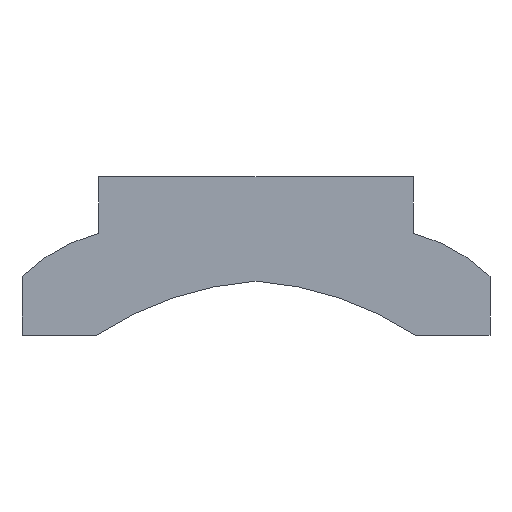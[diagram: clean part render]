
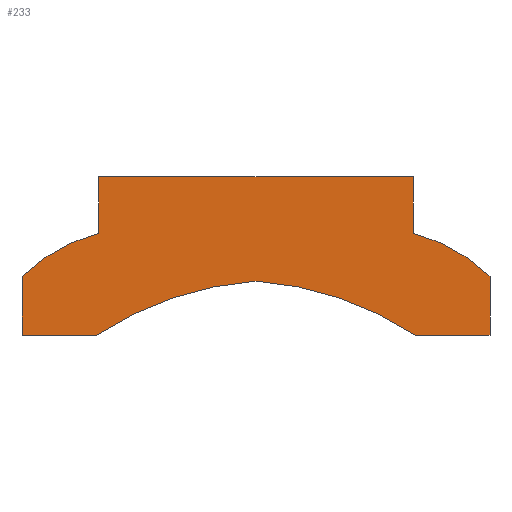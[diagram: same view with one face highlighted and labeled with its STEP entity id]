
A CAD part, left-side view. The second image highlights one B-rep face of the part: STEP entity #233.
In plain terms, the highlighted planar face has unit normal (-1, 0, 0).
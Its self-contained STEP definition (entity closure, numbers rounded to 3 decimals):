
#19=FACE_OUTER_BOUND('',#32,.T.);
#32=EDGE_LOOP('',(#158,#159,#160,#161,#162,#163,#164,#165,#166,#167,#168));
#45=CIRCLE('',#261,70.248);
#46=CIRCLE('',#262,70.248);
#47=CIRCLE('',#263,35.656);
#48=CIRCLE('',#264,35.656);
#53=LINE('',#354,#78);
#54=LINE('',#360,#79);
#55=LINE('',#362,#80);
#56=LINE('',#366,#81);
#57=LINE('',#368,#82);
#58=LINE('',#370,#83);
#59=LINE('',#373,#84);
#78=VECTOR('',#285,10.);
#79=VECTOR('',#290,10.);
#80=VECTOR('',#291,10.);
#81=VECTOR('',#294,10.);
#82=VECTOR('',#295,10.);
#83=VECTOR('',#296,10.);
#84=VECTOR('',#299,10.);
#103=VERTEX_POINT('',#352);
#104=VERTEX_POINT('',#353);
#105=VERTEX_POINT('',#355);
#106=VERTEX_POINT('',#357);
#107=VERTEX_POINT('',#359);
#108=VERTEX_POINT('',#361);
#109=VERTEX_POINT('',#363);
#110=VERTEX_POINT('',#365);
#111=VERTEX_POINT('',#367);
#112=VERTEX_POINT('',#369);
#113=VERTEX_POINT('',#371);
#125=EDGE_CURVE('',#103,#104,#53,.T.);
#126=EDGE_CURVE('',#104,#105,#45,.T.);
#127=EDGE_CURVE('',#105,#106,#46,.T.);
#128=EDGE_CURVE('',#106,#107,#54,.T.);
#129=EDGE_CURVE('',#107,#108,#55,.T.);
#130=EDGE_CURVE('',#108,#109,#47,.T.);
#131=EDGE_CURVE('',#109,#110,#56,.T.);
#132=EDGE_CURVE('',#110,#111,#57,.T.);
#133=EDGE_CURVE('',#111,#112,#58,.T.);
#134=EDGE_CURVE('',#112,#113,#48,.T.);
#135=EDGE_CURVE('',#113,#103,#59,.T.);
#158=ORIENTED_EDGE('',*,*,#125,.T.);
#159=ORIENTED_EDGE('',*,*,#126,.T.);
#160=ORIENTED_EDGE('',*,*,#127,.T.);
#161=ORIENTED_EDGE('',*,*,#128,.T.);
#162=ORIENTED_EDGE('',*,*,#129,.T.);
#163=ORIENTED_EDGE('',*,*,#130,.T.);
#164=ORIENTED_EDGE('',*,*,#131,.T.);
#165=ORIENTED_EDGE('',*,*,#132,.T.);
#166=ORIENTED_EDGE('',*,*,#133,.T.);
#167=ORIENTED_EDGE('',*,*,#134,.T.);
#168=ORIENTED_EDGE('',*,*,#135,.T.);
#224=PLANE('',#260);
#233=ADVANCED_FACE('',(#19),#224,.F.);
#260=AXIS2_PLACEMENT_3D('',#351,#283,#284);
#261=AXIS2_PLACEMENT_3D('',#356,#286,#287);
#262=AXIS2_PLACEMENT_3D('',#358,#288,#289);
#263=AXIS2_PLACEMENT_3D('',#364,#292,#293);
#264=AXIS2_PLACEMENT_3D('',#372,#297,#298);
#283=DIRECTION('center_axis',(1.,0.,0.));
#284=DIRECTION('ref_axis',(0.,1.,0.));
#285=DIRECTION('',(0.,-1.,0.));
#286=DIRECTION('center_axis',(1.,0.,0.));
#287=DIRECTION('ref_axis',(0.,0.549,0.836));
#288=DIRECTION('center_axis',(1.,0.,0.));
#289=DIRECTION('ref_axis',(0.,-0.073,0.997));
#290=DIRECTION('',(0.,-1.,0.));
#291=DIRECTION('',(0.,0.,1.));
#292=DIRECTION('center_axis',(-1.,0.,0.));
#293=DIRECTION('ref_axis',(0.,-0.248,0.969));
#294=DIRECTION('',(0.,0.,1.));
#295=DIRECTION('',(0.,1.,0.));
#296=DIRECTION('',(0.,0.,-1.));
#297=DIRECTION('center_axis',(-1.,0.,0.));
#298=DIRECTION('ref_axis',(0.,0.698,0.716));
#299=DIRECTION('',(0.,0.,-1.));
#351=CARTESIAN_POINT('Origin',(20.,0.,-57.342));
#352=CARTESIAN_POINT('',(20.,48.968,-73.934));
#353=CARTESIAN_POINT('',(20.,33.428,-73.934));
#354=CARTESIAN_POINT('',(20.,33.428,-73.934));
#355=CARTESIAN_POINT('',(20.,0.,-62.604));
#356=CARTESIAN_POINT('Origin',(20.,-5.112,-132.665));
#357=CARTESIAN_POINT('',(20.,-33.428,-73.934));
#358=CARTESIAN_POINT('Origin',(20.,5.112,-132.665));
#359=CARTESIAN_POINT('',(20.,-48.968,-73.934));
#360=CARTESIAN_POINT('',(20.,-33.428,-73.934));
#361=CARTESIAN_POINT('',(20.,-48.968,-61.612));
#362=CARTESIAN_POINT('',(20.,-48.968,-73.934));
#363=CARTESIAN_POINT('',(20.,-32.925,-52.599));
#364=CARTESIAN_POINT('Origin',(20.,-24.073,-87.139));
#365=CARTESIAN_POINT('',(20.,-32.925,-40.751));
#366=CARTESIAN_POINT('',(20.,-32.925,-52.599));
#367=CARTESIAN_POINT('',(20.,32.925,-40.751));
#368=CARTESIAN_POINT('',(20.,32.925,-40.751));
#369=CARTESIAN_POINT('',(20.,32.925,-52.599));
#370=CARTESIAN_POINT('',(20.,32.925,-52.599));
#371=CARTESIAN_POINT('',(20.,48.968,-61.612));
#372=CARTESIAN_POINT('Origin',(20.,24.073,-87.139));
#373=CARTESIAN_POINT('',(20.,48.968,-73.934));
